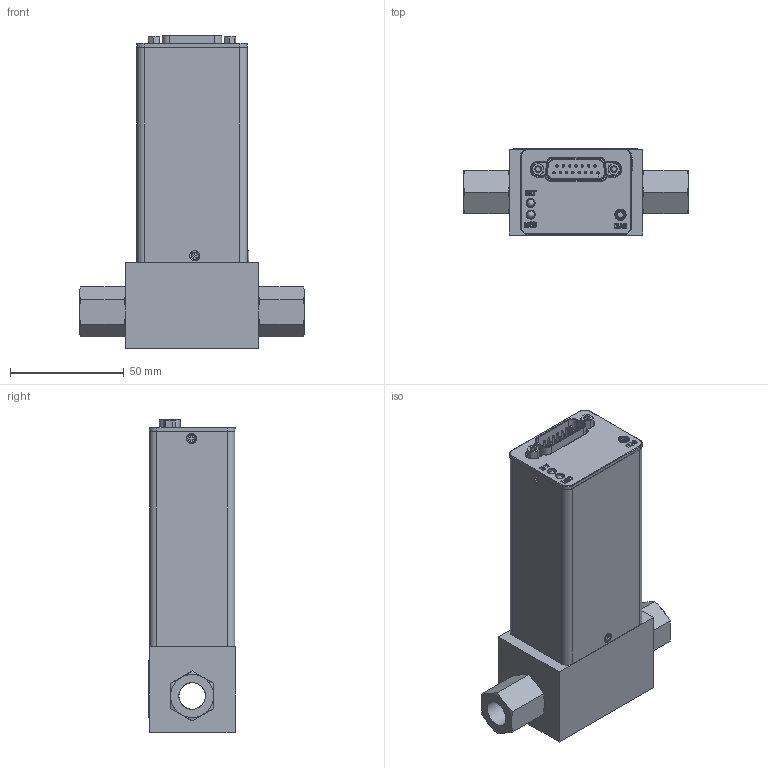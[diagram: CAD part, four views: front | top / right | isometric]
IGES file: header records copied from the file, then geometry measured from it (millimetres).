
Start section: SolidWorks IGES file using analytic representation for surfaces
Global section: file name: G:\Engineering\CAD MODELS FOR SALES\CAD MODEL STORAGE\SLA\SLA5860\CUSTOMER FILES\IGES\SLA5860-S-1G-0-B-REVB.IGS; native system: SolidWorks 2017; preprocessor: SolidWorks 2017; author: JStauffer1; date: 180126.100512; units: inch
Bounding box: 98.77 x 37.86 x 137.39 mm (x, y, z)
Surface area: 41846.6 mm2 (no closed solid volume)
Topology: 0 solids, 0 shells, 488 faces, 5069 edges, 5065 vertices
Faces by surface type: bspline 309, revolution 179
